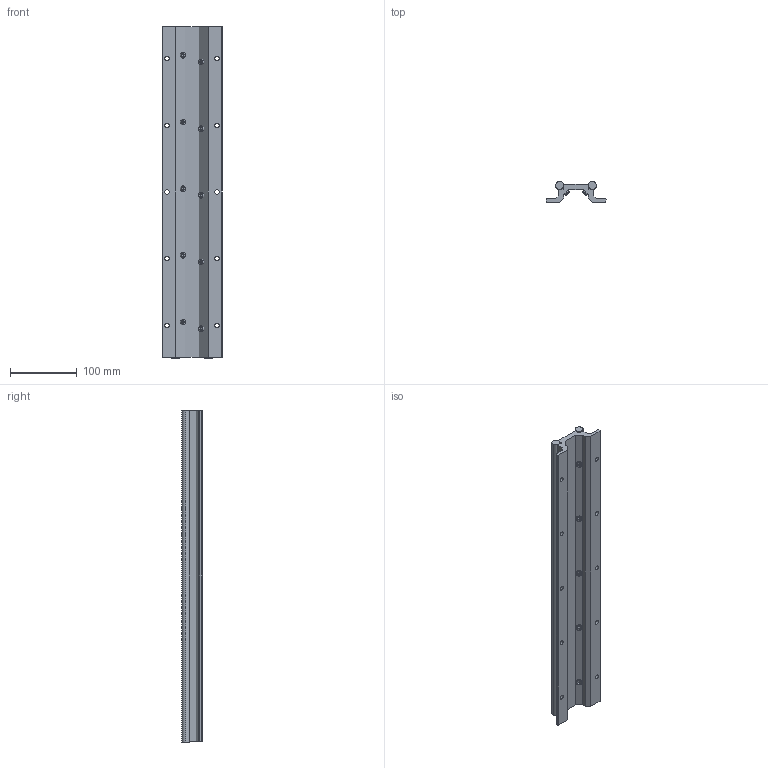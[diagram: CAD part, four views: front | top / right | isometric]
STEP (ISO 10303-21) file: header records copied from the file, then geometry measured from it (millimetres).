
FILE_DESCRIPTION (( 'STEP AP203' ), '1' );
FILE_NAME ('LF 3_-_LF 2 498 mm lang.step', '2005-06-03T06:31:08', ( ' ' ), ( ' ' ), 'SwSTEP 2.0', 'SolidWorks 2004231', '' );
FILE_SCHEMA (( 'CONFIG_CONTROL_DESIGN' ));
Length unit declared in the file: millimetre
Products named in the file (1): LF 3_-_LF 2  498 mm lang
Bounding box: 90 x 31 x 498 mm (x, y, z)
Volume: 520241 mm3; surface area: 161858.5 mm2
Topology: 1 solids, 1 shells, 269 faces, 695 edges, 424 vertices
Faces by surface type: plane 120, cylinder 109, torus 20, cone 20
Entity records: 8306 total; most frequent: CARTESIAN_POINT 2019, ORIENTED_EDGE 1350, DIRECTION 1201, EDGE_CURVE 675, VERTEX_POINT 424, AXIS2_PLACEMENT_3D 406, LINE 389, VECTOR 389
